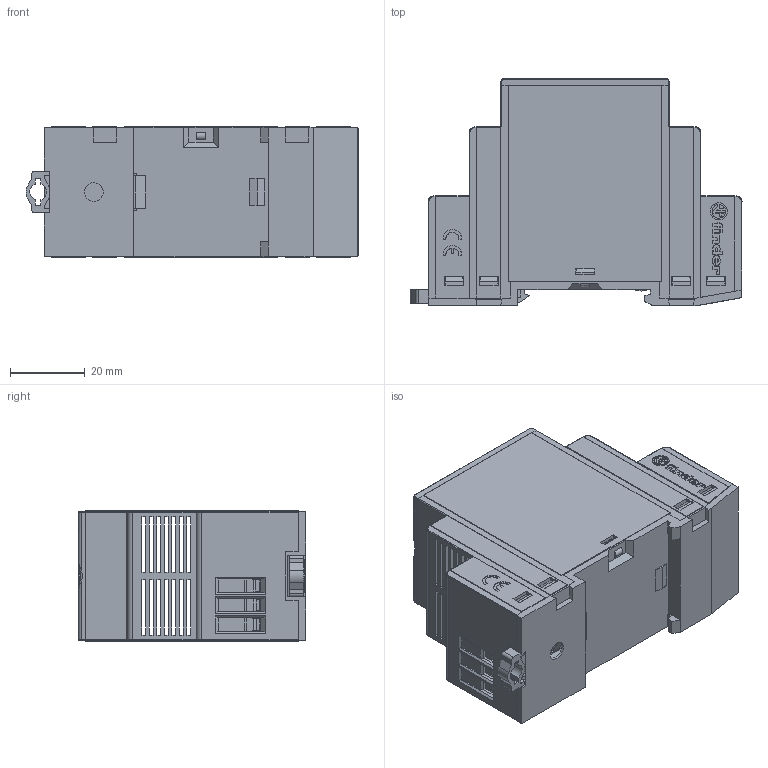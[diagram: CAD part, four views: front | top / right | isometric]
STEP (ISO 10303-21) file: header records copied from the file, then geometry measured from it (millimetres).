
FILE_DESCRIPTION(/* description */ ('Unknown'),/* implementation_level */ '2;1');
FILE_NAME(/* name */ '12A1_rev01',/* time_stamp */ '2016-12-01T16:27:50+01:00',/* author */ ('Unknown'),/* organization */ ('Unknown'),/* preprocessor_version */ 'ST-DEVELOPER v16.7',/* originating_system */ 'DEX',/* authorisation */ $);
FILE_SCHEMA (('AUTOMOTIVE_DESIGN {1 0 10303 214 3 1 1}'));
Length unit declared in the file: millimetre
Products named in the file (1): 12A1_rev01
Bounding box: 88.85 x 60.8 x 35 mm (x, y, z)
Surface area: 24599.4 mm2 (no closed solid volume)
Topology: 0 solids, 36 shells, 1190 faces, 4307 edges, 3079 vertices
Faces by surface type: plane 999, cylinder 114, bspline 26, cone 25, torus 22, sphere 4
Full cylindrical faces by diameter (mm): 2 x1, 3 x2, 3.3 x1, 4.2 x5, 4.566 x2, 5 x1
Entity records: 51083 total; most frequent: CARTESIAN_POINT 10811, ORIENTED_EDGE 6837, DIRECTION 6456, EDGE_CURVE 4276, LINE 3722, VECTOR 3722, VERTEX_POINT 3068, AXIS2_PLACEMENT_3D 1367
